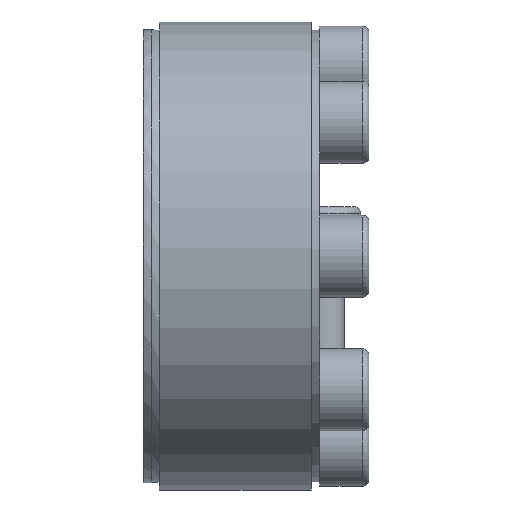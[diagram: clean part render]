
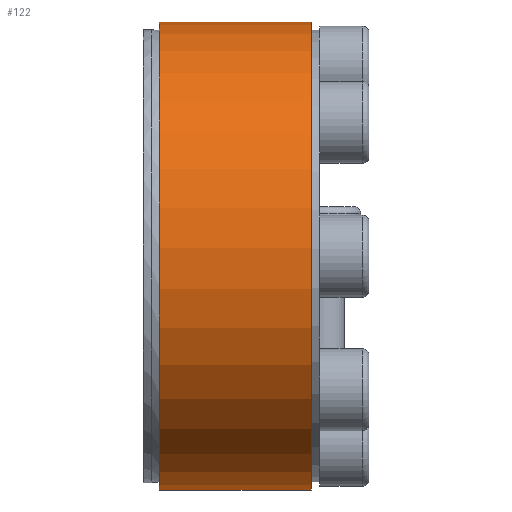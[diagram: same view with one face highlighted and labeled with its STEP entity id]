
A CAD part, left-side view. The second image highlights one B-rep face of the part: STEP entity #122.
In plain terms, the highlighted cylindrical face has radius 28.5 mm (diameter 57 mm), a partial arc.
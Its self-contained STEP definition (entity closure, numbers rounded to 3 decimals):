
#122 = ADVANCED_FACE( '', ( #262 ), #263, .T. );
#262 = FACE_OUTER_BOUND( '', #404, .T. );
#263 = CYLINDRICAL_SURFACE( '', #405, 28.5 );
#404 = EDGE_LOOP( '', ( #688, #689, #690, #691 ) );
#405 = AXIS2_PLACEMENT_3D( '', #692, #693, #694 );
#688 = ORIENTED_EDGE( '', *, *, #817, .F. );
#689 = ORIENTED_EDGE( '', *, *, #839, .T. );
#690 = ORIENTED_EDGE( '', *, *, #848, .T. );
#691 = ORIENTED_EDGE( '', *, *, #808, .F. );
#692 = CARTESIAN_POINT( '', ( 0., -60., 0. ) );
#693 = DIRECTION( '', ( 0., 1., 0. ) );
#694 = DIRECTION( '', ( 0., 0., -1. ) );
#808 = EDGE_CURVE( '', #992, #994, #995, .T. );
#817 = EDGE_CURVE( '', #1009, #992, #1010, .T. );
#839 = EDGE_CURVE( '', #1009, #1036, #1037, .T. );
#848 = EDGE_CURVE( '', #1036, #994, #1047, .T. );
#992 = VERTEX_POINT( '', #1291 );
#994 = VERTEX_POINT( '', #1294 );
#995 = CIRCLE( '', #1295, 28.5 );
#1009 = VERTEX_POINT( '', #1315 );
#1010 = LINE( '', #1316, #1317 );
#1036 = VERTEX_POINT( '', #1352 );
#1037 = CIRCLE( '', #1353, 28.5 );
#1047 = LINE( '', #1366, #1367 );
#1291 = CARTESIAN_POINT( '', ( 10.21, 1., 26.608 ) );
#1294 = CARTESIAN_POINT( '', ( 11.596, 1., 26.034 ) );
#1295 = AXIS2_PLACEMENT_3D( '', #1487, #1488, #1489 );
#1315 = CARTESIAN_POINT( '', ( 10.21, 19.5, 26.608 ) );
#1316 = CARTESIAN_POINT( '', ( 10.21, -60., 26.608 ) );
#1317 = VECTOR( '', #1496, 1000. );
#1352 = CARTESIAN_POINT( '', ( 11.596, 19.5, 26.034 ) );
#1353 = AXIS2_PLACEMENT_3D( '', #1515, #1516, #1517 );
#1366 = CARTESIAN_POINT( '', ( 11.596, -60., 26.034 ) );
#1367 = VECTOR( '', #1527, 1000. );
#1487 = CARTESIAN_POINT( '', ( 0., 1., 0. ) );
#1488 = DIRECTION( '', ( 0., -1., 0. ) );
#1489 = DIRECTION( '', ( 0., 0., -1. ) );
#1496 = DIRECTION( '', ( 0., -1., 0. ) );
#1515 = CARTESIAN_POINT( '', ( 0., 19.5, 0. ) );
#1516 = DIRECTION( '', ( 0., -1., 0. ) );
#1517 = DIRECTION( '', ( 0., 0., -1. ) );
#1527 = DIRECTION( '', ( 0., -1., 0. ) );
